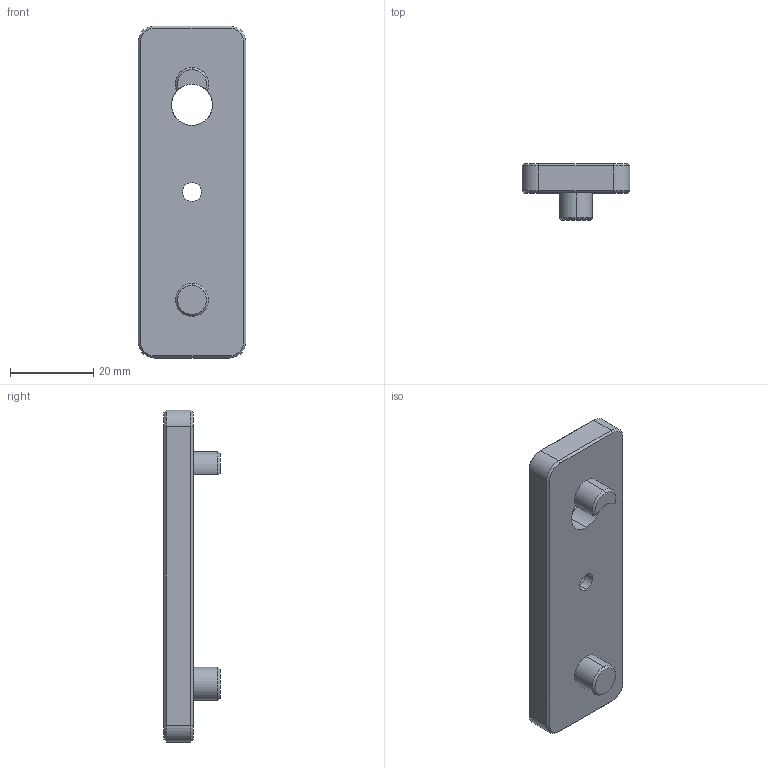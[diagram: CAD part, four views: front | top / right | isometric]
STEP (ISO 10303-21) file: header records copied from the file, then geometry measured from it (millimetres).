
FILE_DESCRIPTION (( 'STEP AP214' ), '1' );
FILE_NAME ('AGZ061.02.02_V1 3.0垫板.STEP', '2021-09-23T00:29:23', ( '微软中国' ), ( 'Microsoft' ), 'SwSTEP 2.0', 'SolidWorks 2017', '' );
FILE_SCHEMA (( 'AUTOMOTIVE_DESIGN' ));
Length unit declared in the file: millimetre
Products named in the file (1): AGZ061.02.02_V1 3.0菜啣
Bounding box: 26 x 13.5 x 80 mm (x, y, z)
Volume: 14116.6 mm3; surface area: 5927.9 mm2
Topology: 1 solids, 1 shells, 45 faces, 102 edges, 61 vertices
Faces by surface type: plane 17, cylinder 14, cone 14
Entity records: 1296 total; most frequent: DIRECTION 236, CARTESIAN_POINT 215, ORIENTED_EDGE 204, EDGE_CURVE 102, AXIS2_PLACEMENT_3D 90, VERTEX_POINT 61, VECTOR 56, LINE 56
